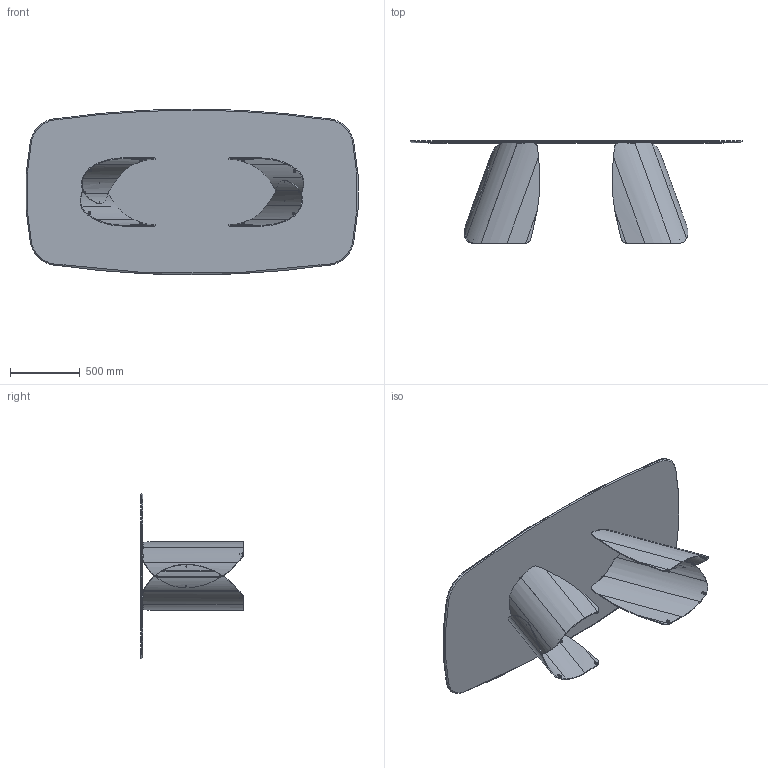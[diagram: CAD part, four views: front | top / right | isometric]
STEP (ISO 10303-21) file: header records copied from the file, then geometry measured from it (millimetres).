
FILE_DESCRIPTION (( 'STEP AP203' ), '1' );
FILE_NAME ('PA42C_Perla 239x119_Ceramic Shaped.STEP', '2024-07-31T12:42:20', ( '' ), ( '' ), 'SwSTEP 2.0', 'SolidWorks 2022', '' );
FILE_SCHEMA (( 'CONFIG_CONTROL_DESIGN' ));
Length unit declared in the file: millimetre
Products named in the file (9): PA42C_Perla 239x119_Ceramic Shaped; K4XCMXX-00-Piani Sagomati in ceramica_2390 x 1190; PER000000-00-PERLA BASE GREZZA; PIEDINO D.15 x H.8_filetto M6x11; COLLO BASE PERLA PER000000 CON FERRAMENTA; PER000000_02-00-PERLA LAMIERA INTERNA; profilo U 9x7 bombato_L = 60mm; PER000000_01-00-PERLA LAMIERA ESTERNA; PER000000_03-00-PERLA BUSSOLA PER PIEDE
Assembly tree (16 placements, depth 4):
  PA42C_Perla 239x119_Ceramic Shaped
    COLLO BASE PERLA PER000000 CON FERRAMENTA  x2
      PER000000-00-PERLA BASE GREZZA
        PER000000_01-00-PERLA LAMIERA ESTERNA
        PER000000_02-00-PERLA LAMIERA INTERNA
        PER000000_03-00-PERLA BUSSOLA PER PIEDE  x4
      PIEDINO D.15 x H.8_filetto M6x11
      profilo U 9x7 bombato_L = 60mm
    K4XCMXX-00-Piani Sagomati in ceramica_2390 x 1190
Bounding box: 2382.15 x 737.5 x 1190 mm (x, y, z)
Volume: 51734274.5 mm3; surface area: 13960656 mm2
Topology: 34 solids, 34 shells, 497 faces, 1103 edges, 674 vertices
Faces by surface type: cylinder 174, bspline 130, plane 104, cone 57, torus 32
Entity records: 12857 total; most frequent: CARTESIAN_POINT 8271, ORIENTED_EDGE 800, DIRECTION 567, EDGE_CURVE 400, VERTEX_POINT 247, AXIS2_PLACEMENT_3D 221, EDGE_LOOP 181, ADVANCED_FACE 171
